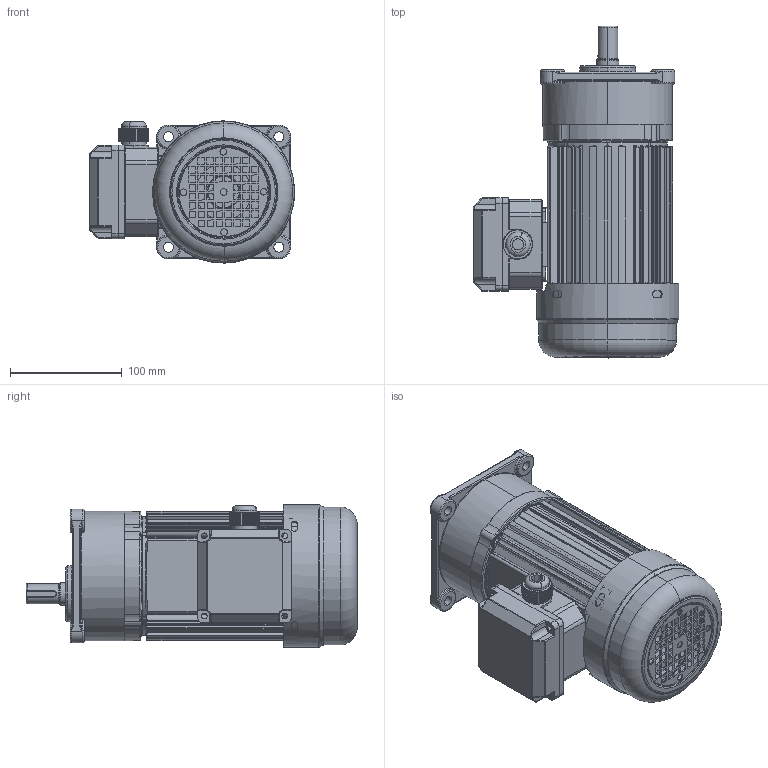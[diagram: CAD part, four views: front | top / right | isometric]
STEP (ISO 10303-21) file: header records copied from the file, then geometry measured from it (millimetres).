
FILE_DESCRIPTION (( 'STEP AP203' ), '1' );
FILE_NAME ('200W饜1#湍价陬蕾宒.STEP', '2020-04-17T02:38:42', ( '' ), ( '' ), 'SwSTEP 2.0', 'SolidWorks 2019', '' );
FILE_SCHEMA (( 'CONFIG_CONTROL_DESIGN' ));
Length unit declared in the file: millimetre
Products named in the file (7): 諉芛; 200W饜1#蕾宒; 湍价陬諉盄碟裔; 100W价陬瑞欶; 100W棠憤迖殤; 200W饜1#湍价陬蕾宒; 蜊輛綴諉盄碟釱3
Assembly tree (6 placements, depth 2):
  200W饜1#湍价陬蕾宒
    200W饜1#蕾宒
    100W棠憤迖殤
    100W价陬瑞欶
    蜊輛綴諉盄碟釱3
    諉芛
    湍价陬諉盄碟裔
Bounding box: 184.25 x 297.5 x 127.5 mm (x, y, z)
Volume: 1152497.9 mm3; surface area: 422573.9 mm2
Topology: 8 solids, 8 shells, 2314 faces, 5950 edges, 3626 vertices
Faces by surface type: cylinder 752, plane 696, bspline 368, torus 232, sphere 139, cone 127
Entity records: 92197 total; most frequent: CARTESIAN_POINT 38503, ORIENTED_EDGE 11636, DIRECTION 10453, EDGE_CURVE 5818, AXIS2_PLACEMENT_3D 4030, VERTEX_POINT 3611, EDGE_LOOP 2569, VECTOR 2393
